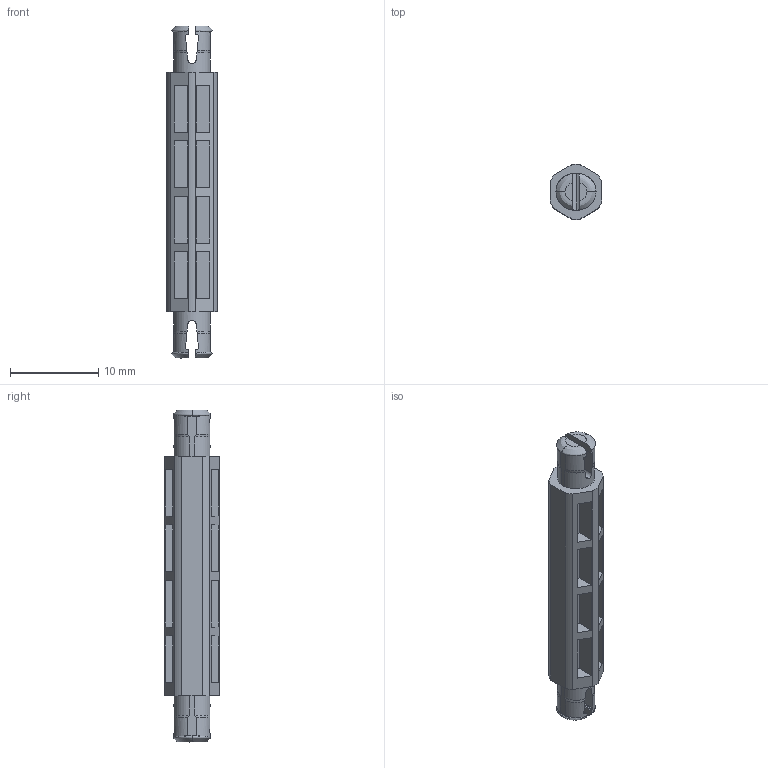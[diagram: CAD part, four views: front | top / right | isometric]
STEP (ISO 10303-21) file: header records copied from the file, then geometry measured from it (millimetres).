
FILE_DESCRIPTION (( 'STEP AP214' ), '1' );
FILE_NAME ('228-2500-2271.STEP', '2021-02-18T20:39:44', ( '' ), ( '' ), 'SwSTEP 2.0', 'SolidWorks 2019', '' );
FILE_SCHEMA (( 'AUTOMOTIVE_DESIGN' ));
Length unit declared in the file: millimetre
Products named in the file (1): 228-2500-2271
Bounding box: 5.8 x 6.24 x 37.68 mm (x, y, z)
Volume: 676.4 mm3; surface area: 1104.9 mm2
Topology: 1 solids, 1 shells, 166 faces, 426 edges, 280 vertices
Faces by surface type: plane 112, cylinder 30, bspline 16, cone 8
Entity records: 14924 total; most frequent: CARTESIAN_POINT 11085, ORIENTED_EDGE 852, DIRECTION 672, EDGE_CURVE 426, VERTEX_POINT 280, LINE 274, VECTOR 274, AXIS2_PLACEMENT_3D 199
